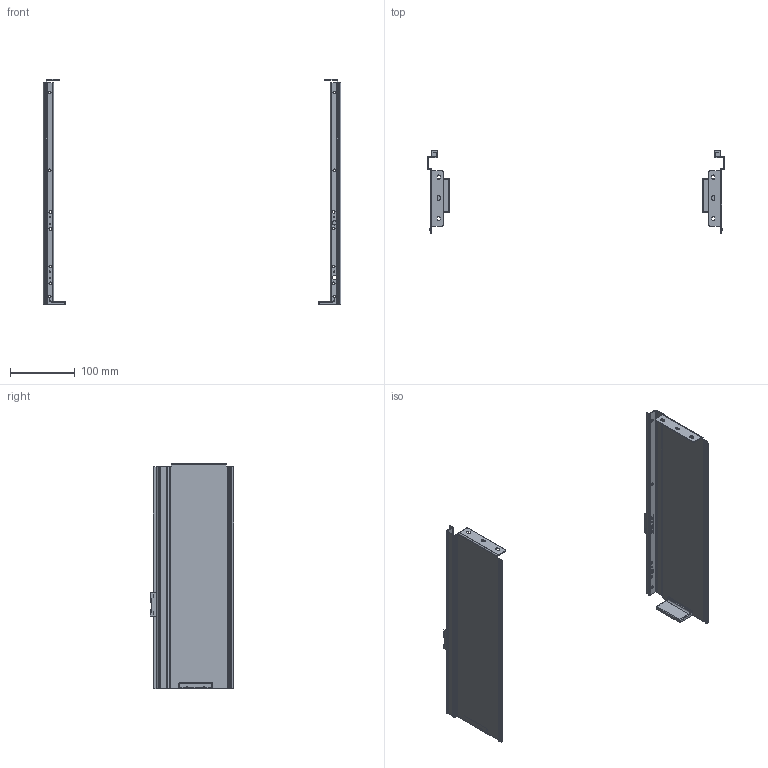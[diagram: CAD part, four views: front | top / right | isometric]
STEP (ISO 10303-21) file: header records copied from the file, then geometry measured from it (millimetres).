
FILE_DESCRIPTION(/* description */ (''),/* implementation_level */ '2;1');
FILE_NAME(/* name */ 'C:\Users\dmitruk\Documents\WORK\\X2\041D0410041F042004100412041B042F042E042904180415\X0\\ULTRA SLIM\\X2\0411043E043A043E04320438043D043A0438\X0\ Q-Type\Боковинки Q-Type-350 средний.stp',/* time_stamp */ '2022-07-28T10:08:58+03:00',/* author */ ('dmitruk'),/* organization */ (''),/* preprocessor_version */ 'ST-DEVELOPER v16.5',/* originating_system */ 'Autodesk Inventor 2017',/* authorisation */ '');
FILE_SCHEMA (('AUTOMOTIVE_DESIGN { 1 0 10303 214 3 1 1 }'));
Length unit declared in the file: millimetre
Products named in the file (3): Боковинки Q-Type; Боковина USLIM; Боковина USLIM L
Assembly tree (2 placements, depth 2):
  Боковинки Q-Type
    Боковина USLIM
    Боковина USLIM L
Bounding box: 459.6 x 128.4 x 348 mm (x, y, z)
Volume: 156675.3 mm3; surface area: 223343.8 mm2
Topology: 8 solids, 8 shells, 480 faces, 1328 edges, 868 vertices
Faces by surface type: plane 210, cylinder 198, torus 36, bspline 28, sphere 8
Full cylindrical faces by diameter (mm): 2 x6, 4.2 x18, 6 x2, 7 x2, 8 x4
Entity records: 16205 total; most frequent: CARTESIAN_POINT 3159, DIRECTION 2702, ORIENTED_EDGE 2548, EDGE_CURVE 1274, AXIS2_PLACEMENT_3D 979, VERTEX_POINT 846, LINE 744, VECTOR 744
